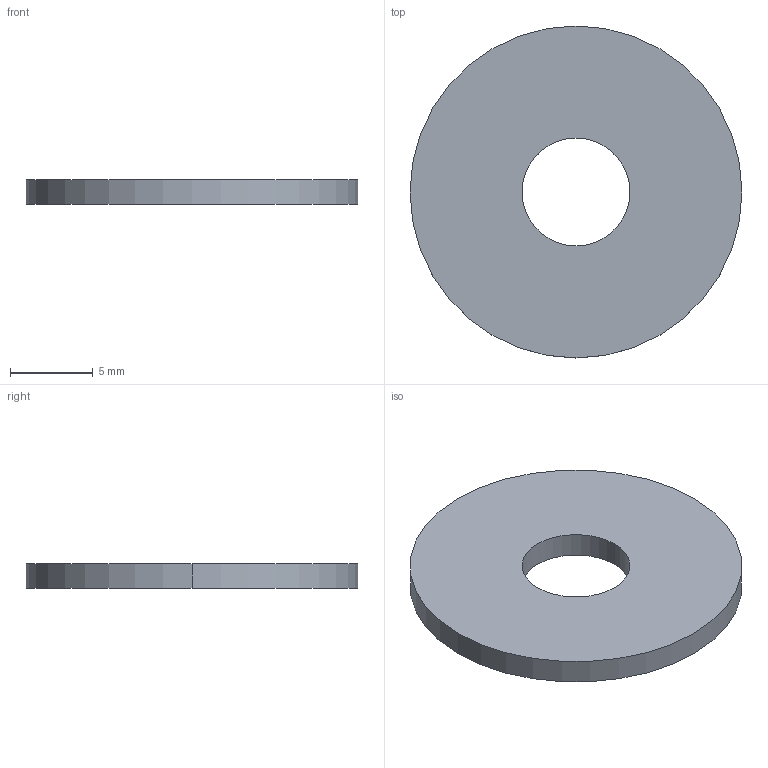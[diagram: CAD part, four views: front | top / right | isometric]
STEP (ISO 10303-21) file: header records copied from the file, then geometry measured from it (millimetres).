
FILE_DESCRIPTION (( 'STEP AP203' ), '1' );
FILE_NAME ('P0333.060-020-A4.step', '2018-12-17T19:08:07', ( '' ), ( '' ), 'SwSTEP 2.0', 'SolidWorks 2017', '' );
FILE_SCHEMA (( 'CONFIG_CONTROL_DESIGN' ));
Length unit declared in the file: millimetre
Products named in the file (1): P0333.060-020-A4
Bounding box: 20 x 20 x 1.5 mm (x, y, z)
Volume: 421.5 mm3; surface area: 686.8 mm2
Topology: 1 solids, 1 shells, 6 faces, 12 edges, 8 vertices
Faces by surface type: cylinder 4, plane 2
Entity records: 245 total; most frequent: DIRECTION 34, CARTESIAN_POINT 27, ORIENTED_EDGE 24, AXIS2_PLACEMENT_3D 15, EDGE_CURVE 12, CIRCLE 8, VERTEX_POINT 8, PERSON_AND_ORGANIZATION 8
